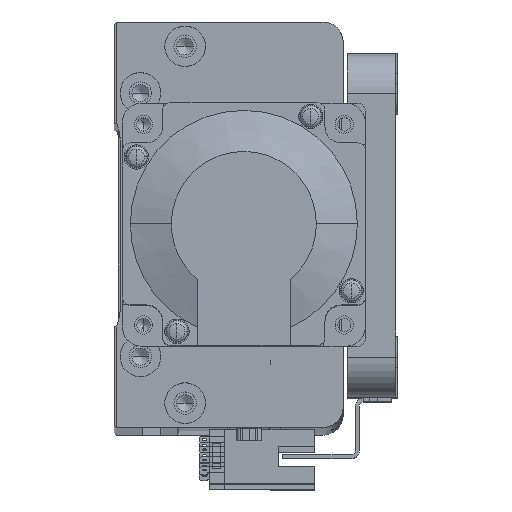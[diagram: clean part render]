
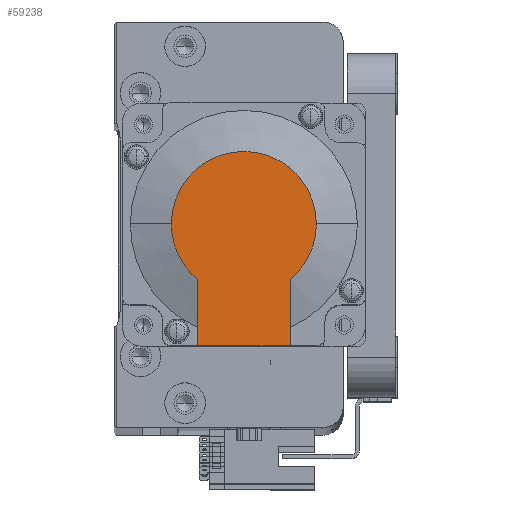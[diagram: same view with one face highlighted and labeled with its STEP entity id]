
A CAD part, top view. The second image highlights one B-rep face of the part: STEP entity #59238.
In plain terms, the highlighted planar face has unit normal (0, 0, 1) as drawn and (-1, 0, 0) by its records, which use the part's own axes.
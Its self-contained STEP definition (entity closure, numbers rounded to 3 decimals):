
#725 = VERTEX_POINT ( 'NONE', #27301 ) ;
#906 = LINE ( 'NONE', #53666, #20200 ) ;
#1179 = ORIENTED_EDGE ( 'NONE', *, *, #11313, .T. ) ;
#2515 = ORIENTED_EDGE ( 'NONE', *, *, #35868, .T. ) ;
#2686 = DIRECTION ( 'NONE',  ( 0., 0., -1. ) ) ;
#3237 = EDGE_CURVE ( 'NONE', #725, #3794, #4929, .T. ) ;
#3351 = EDGE_CURVE ( 'NONE', #7081, #21840, #56493, .T. ) ;
#3469 = CARTESIAN_POINT ( 'NONE',  ( -118.5, -8.941, -11.45 ) ) ;
#3794 = VERTEX_POINT ( 'NONE', #47502 ) ;
#4929 = CIRCLE ( 'NONE', #17821, 17.881 ) ;
#5784 = EDGE_CURVE ( 'NONE', #7081, #28336, #906, .T. ) ;
#7081 = VERTEX_POINT ( 'NONE', #32634 ) ;
#9244 = DIRECTION ( 'NONE',  ( -1., 0., 0. ) ) ;
#10153 = AXIS2_PLACEMENT_3D ( 'NONE', #14308, #46467, #18912 ) ;
#10813 = ORIENTED_EDGE ( 'NONE', *, *, #35675, .F. ) ;
#11313 = EDGE_CURVE ( 'NONE', #21840, #725, #47574, .T. ) ;
#14308 = CARTESIAN_POINT ( 'NONE',  ( -118.5, 0., 0. ) ) ;
#16158 = VERTEX_POINT ( 'NONE', #56248 ) ;
#17683 = EDGE_LOOP ( 'NONE', ( #36818, #1179, #48152, #2515, #10813, #18069 ) ) ;
#17821 = AXIS2_PLACEMENT_3D ( 'NONE', #57524, #30118, #2686 ) ;
#18069 = ORIENTED_EDGE ( 'NONE', *, *, #5784, .F. ) ;
#18912 = DIRECTION ( 'NONE',  ( 0., 0., -1. ) ) ;
#20200 = VECTOR ( 'NONE', #26150, 1000. ) ;
#20234 = CARTESIAN_POINT ( 'NONE',  ( -118.5, 13.735, -11.45 ) ) ;
#21670 = AXIS2_PLACEMENT_3D ( 'NONE', #36774, #9244, #41398 ) ;
#21693 = FACE_OUTER_BOUND ( 'NONE', #17683, .T. ) ;
#21840 = VERTEX_POINT ( 'NONE', #20234 ) ;
#21957 = CARTESIAN_POINT ( 'NONE',  ( -118.5, 0., 0. ) ) ;
#22104 = CARTESIAN_POINT ( 'NONE',  ( -118.5, 0., 11.45 ) ) ;
#24278 = CIRCLE ( 'NONE', #10153, 17.881 ) ;
#26150 = DIRECTION ( 'NONE',  ( 0., 0., 1. ) ) ;
#26572 = DIRECTION ( 'NONE',  ( 0., 0., -1. ) ) ;
#26732 = DIRECTION ( 'NONE',  ( 0., -1., 0. ) ) ;
#27301 = CARTESIAN_POINT ( 'NONE',  ( -118.5, 0., -17.881 ) ) ;
#28336 = VERTEX_POINT ( 'NONE', #56602 ) ;
#30118 = DIRECTION ( 'NONE',  ( -1., 0., 0. ) ) ;
#31403 = VECTOR ( 'NONE', #26732, 1000. ) ;
#32634 = CARTESIAN_POINT ( 'NONE',  ( -118.5, 30., -11.45 ) ) ;
#35675 = EDGE_CURVE ( 'NONE', #28336, #16158, #55773, .T. ) ;
#35744 = DIRECTION ( 'NONE',  ( 0., -1., 0. ) ) ;
#35868 = EDGE_CURVE ( 'NONE', #3794, #16158, #24278, .T. ) ;
#36774 = CARTESIAN_POINT ( 'NONE',  ( -118.5, -8.941, 0. ) ) ;
#36818 = ORIENTED_EDGE ( 'NONE', *, *, #3351, .T. ) ;
#41398 = DIRECTION ( 'NONE',  ( 0., 0., 1. ) ) ;
#44382 = VECTOR ( 'NONE', #35744, 1000. ) ;
#46467 = DIRECTION ( 'NONE',  ( -1., 0., 0. ) ) ;
#47502 = CARTESIAN_POINT ( 'NONE',  ( -118.5, 0., 17.881 ) ) ;
#47574 = CIRCLE ( 'NONE', #52083, 17.881 ) ;
#48152 = ORIENTED_EDGE ( 'NONE', *, *, #3237, .T. ) ;
#52083 = AXIS2_PLACEMENT_3D ( 'NONE', #21957, #54129, #26572 ) ;
#53666 = CARTESIAN_POINT ( 'NONE',  ( -118.5, 30., 25. ) ) ;
#54129 = DIRECTION ( 'NONE',  ( -1., 0., 0. ) ) ;
#55773 = LINE ( 'NONE', #22104, #31403 ) ;
#56248 = CARTESIAN_POINT ( 'NONE',  ( -118.5, 13.735, 11.45 ) ) ;
#56493 = LINE ( 'NONE', #3469, #44382 ) ;
#56602 = CARTESIAN_POINT ( 'NONE',  ( -118.5, 30., 11.45 ) ) ;
#57524 = CARTESIAN_POINT ( 'NONE',  ( -118.5, 0., 0. ) ) ;
#59238 = ADVANCED_FACE ( 'NONE', ( #21693 ), #59296, .T. ) ;
#59296 = PLANE ( 'NONE',  #21670 ) ;
